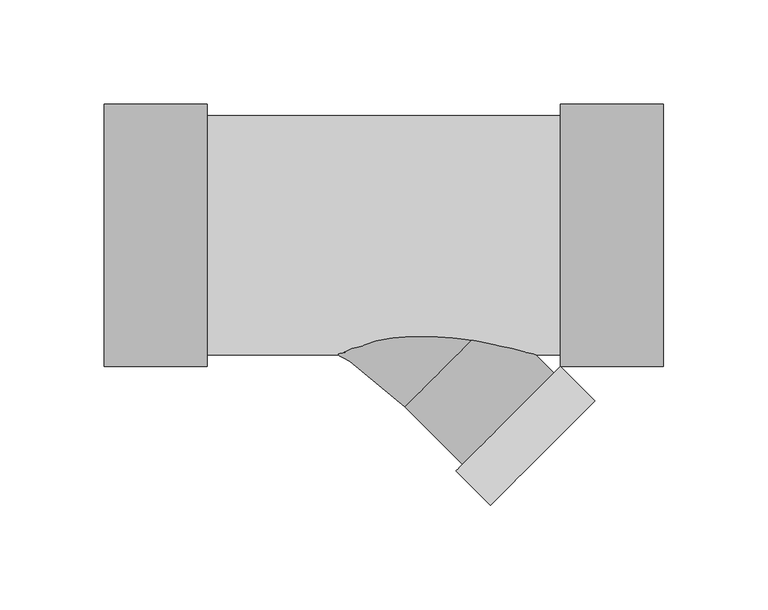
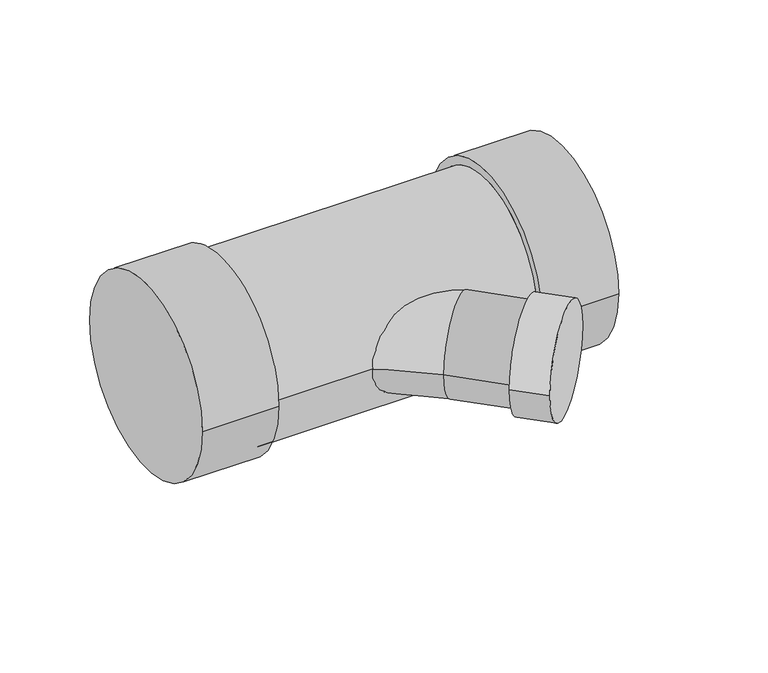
"""IFC4 building model written with IfcOpenShell, lengths in millimetres: pipe fitting geometry, M_Sanitario con te de reducción - PVC - Serie 40 - DWV : Estándar."""

from ifc_helpers import new_model, si_unit, point, frame, origin, place, context, project, spatial, circle_curve, ellipse_curve, trimmed, source, transform, mapped, element, save
from ifc_brep_helpers import plane_surface, cylinder_surface, revolved_surface, advanced_brep


def pipe_fitting_7e95fadc(model_context):
    return source(origin(), model_context, "Body", "AdvancedBrep", [
        advanced_brep(
        [(113.006794, -62.8511094, 0.0), (113.006794, 62.8511094, 0.0), (113.006794, -57.3960625, 0.0), (113.006794, 57.3960625, 0.0), (162.2431065, -62.8511094, 0.0), (162.2431065, 62.8511094, 0.0), (-56.5584022, 57.3960625, 0.0), (-56.5584022, -57.3960625, 0.0), (-105.7947148, -62.8511094, 0.0), (-105.7947147, 62.8511094, 0.0), (-56.5584023, -62.8511094, 0.0), (-56.5584022, 62.8511094, 0.0)],
        [
            (0, 1, circle_curve(frame((113.006794, 0.0, 0.0), z_axis=(-1.0, 0.0, 0.0), x_axis=(0.0, 1.0, 0.0)), 62.8511094)),
            (1, 0, circle_curve(frame((113.006794, 0.0, 0.0), z_axis=(-1.0, 0.0, 0.0), x_axis=(0.0, 1.0, 0.0)), 62.8511094)),
            (2, 3, circle_curve(frame((113.006794, 0.0, 0.0), z_axis=(1.0, 0.0, 0.0), x_axis=(0.0, 0.0, -1.0)), 57.3960625)),
            (3, 2, circle_curve(frame((113.006794, 0.0, 0.0), z_axis=(1.0, 0.0, 0.0), x_axis=(0.0, 0.0, 1.0)), 57.3960625)),
            (4, 5, circle_curve(frame((162.2431065, 0.0, 0.0), z_axis=(1.0, 0.0, 0.0), x_axis=(0.0, 1.0, 0.0)), 62.8511094)),
            (5, 4, circle_curve(frame((162.2431065, 0.0, 0.0), z_axis=(1.0, 0.0, 0.0), x_axis=(0.0, 1.0, 0.0)), 62.8511094)),
            (0, 4),
            (5, 1),
            (6, 3),
            (2, 7),
            (7, 6, circle_curve(frame((-56.5584023, 0.0, 0.0), z_axis=(1.0, 0.0, 0.0), x_axis=(0.0, 0.0, -1.0)), 57.3960625)),
            (6, 7, circle_curve(frame((-56.5584022, 0.0, 0.0), z_axis=(1.0, 0.0, 0.0), x_axis=(0.0, 0.0, 1.0)), 57.3960625)),
            (8, 9, circle_curve(frame((-105.7947147, 0.0, 0.0), z_axis=(-1.0, 0.0, 0.0), x_axis=(0.0, 1.0, 0.0)), 62.8511094)),
            (9, 8, circle_curve(frame((-105.7947147, 0.0, 0.0), z_axis=(-1.0, 0.0, 0.0), x_axis=(0.0, 1.0, 0.0)), 62.8511094)),
            (10, 11, circle_curve(frame((-56.5584022, 0.0, 0.0), z_axis=(1.0, 0.0, 0.0), x_axis=(0.0, 1.0, 0.0)), 62.8511094)),
            (11, 10, circle_curve(frame((-56.5584022, 0.0, 0.0), z_axis=(1.0, 0.0, 0.0), x_axis=(0.0, 1.0, 0.0)), 62.8511094)),
            (8, 10),
            (11, 9),
        ],
        [
            plane_surface(frame((113.006794, 0.0, 0.0), z_axis=(-1.0, 0.0, 0.0), x_axis=(0.0, 0.0, 1.0))),
            plane_surface(frame((162.2431065, 0.0, 0.0), z_axis=(1.0, 0.0, 0.0), x_axis=(0.0, 0.0, 1.0))),
            cylinder_surface(frame((113.006794, 0.0, 0.0), z_axis=(-1.0, 0.0, 0.0), x_axis=(0.0, 1.0, 0.0)), 62.8511094),
            cylinder_surface(frame((-56.5584022, 0.0, 0.0), z_axis=(1.0, 0.0, 0.0), x_axis=(0.0, 0.0, -1.0)), 57.3960625),
            cylinder_surface(frame((-56.5584022, 0.0, 0.0), z_axis=(1.0, 0.0, 0.0), x_axis=(0.0, 0.0, 1.0)), 57.3960625),
            plane_surface(frame((-105.7947147, 0.0, 0.0), z_axis=(-1.0, 0.0, 0.0), x_axis=(0.0, 0.0, 1.0))),
            plane_surface(frame((-56.5584022, 0.0, 0.0), z_axis=(1.0, 0.0, 0.0), x_axis=(0.0, 0.0, 1.0))),
            cylinder_surface(frame((-105.7947147, 0.0, 0.0), z_axis=(-1.0, 0.0, 0.0), x_axis=(0.0, 1.0, 0.0)), 62.8511094),
        ],
        [
            (0, [[1, 2], [3, 4]]),
            (1, [[5, 6]]),
            (2, [[-1, 7, -6, 8]]),
            (2, [[-2, -8, -5, -7]]),
            (3, [[9, -3, 10, 11]]),
            (4, [[-9, 12, -10, -4]]),
            (5, [[13, 14]]),
            (6, [[15, 16], [-11, -12]]),
            (7, [[-13, 17, -16, 18]]),
            (7, [[-14, -18, -15, -17]]),
        ],
    ),
        advanced_brep(
        [(129.5085444, -79.3405726, 0.0), (79.4370185, -129.4494095, 0.0), (60.4006737, -60.3556994, 30.9800625), (38.5026217, -82.2700689, 0.0), (66.072979, -109.8198973, 0.0), (109.8690831, -65.9911583, 0.0), (82.2987258, -38.4413299, 0.0), (60.4006737, -60.3556994, -30.9800625), (-85.3876562, -30.9800625, 0.0), (-85.3876562, 30.9800625, 0.0), (113.006794, -62.8511094, 0.0), (62.9352681, -112.9599463, 0.0)],
        [
            (0, 1, circle_curve(frame((104.4727815, -104.394991, 0.0), z_axis=(0.7073700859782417, -0.7068433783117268, 0.0), x_axis=(-0.7068433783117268, -0.7073700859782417, 0.0)), 35.4191094)),
            (1, 0, circle_curve(frame((104.4727815, -104.394991, 0.0), z_axis=(0.7073700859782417, -0.7068433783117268, 0.0), x_axis=(-0.7068433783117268, -0.7073700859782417, 0.0)), 35.4191094)),
            (2, 3, circle_curve(frame((60.4006737, -60.3556994, 0.0), z_axis=(0.7073700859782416, -0.706843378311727, 0.0), x_axis=(0.706843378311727, 0.7073700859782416, 0.0)), 30.9800625)),
            (3, 4),
            (4, 5, circle_curve(frame((87.971031, -87.9055278, 0.0), z_axis=(-0.7073700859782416, 0.706843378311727, 0.0), x_axis=(0.706843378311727, 0.7073700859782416, 0.0)), 30.9800625)),
            (5, 6),
            (6, 2, circle_curve(frame((60.4006737, -60.3556994, 0.0), z_axis=(0.7073700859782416, -0.706843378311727, 0.0), x_axis=(0.706843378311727, 0.7073700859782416, 0.0)), 30.9800625)),
            (3, 7, circle_curve(frame((60.4006737, -60.3556994, 0.0), z_axis=(0.7073700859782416, -0.706843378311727, 0.0), x_axis=(0.706843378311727, 0.7073700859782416, 0.0)), 30.9800625)),
            (7, 6, circle_curve(frame((60.4006737, -60.3556994, 0.0), z_axis=(0.7073700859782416, -0.706843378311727, 0.0), x_axis=(0.706843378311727, 0.7073700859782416, 0.0)), 30.9800625)),
            (5, 4, circle_curve(frame((87.971031, -87.9055278, 0.0), z_axis=(-0.7073700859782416, 0.706843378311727, 0.0), x_axis=(0.706843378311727, 0.7073700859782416, 0.0)), 30.9800625)),
            (8, 9, circle_curve(frame((-85.3876562, 0.0, 0.0), z_axis=(-1.0000000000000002, 0.0, 0.0), x_axis=(0.0, 1.0, 0.0)), 30.9800625)),
            (9, 8, circle_curve(frame((-85.3876562, 0.0, 0.0), z_axis=(-1.0000000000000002, 0.0, 0.0), x_axis=(0.0, 1.0, 0.0)), 30.9800625)),
            (8, 3, circle_curve(frame((-85.3876562, -206.2526643, 0.0), z_axis=(0.0, 0.0, -1.0), x_axis=(0.0, 1.0, 0.0)), 175.2726018)),
            (6, 9, circle_curve(frame((-85.3876562, -206.2526643, 0.0), z_axis=(0.0, 0.0, 1.0), x_axis=(0.0, 1.0, 0.0)), 237.2327268)),
            (10, 11, circle_curve(frame((87.971031, -87.9055278, 0.0), z_axis=(-0.7073700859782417, 0.7068433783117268, 0.0), x_axis=(-0.7068433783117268, -0.7073700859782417, 0.0)), 35.4191094)),
            (11, 10, circle_curve(frame((87.971031, -87.9055278, 0.0), z_axis=(-0.7073700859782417, 0.7068433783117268, 0.0), x_axis=(-0.7068433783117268, -0.7073700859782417, 0.0)), 35.4191094)),
            (0, 10),
            (11, 1),
        ],
        [
            plane_surface(frame((104.4727815, -104.394991, 0.0), z_axis=(0.7073700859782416, -0.706843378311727, 0.0), x_axis=(0.0, 0.0, 1.0))),
            cylinder_surface(frame((60.4006737, -60.3556994, 0.0), z_axis=(-0.7073700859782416, 0.706843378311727, 0.0), x_axis=(0.706843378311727, 0.7073700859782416, 0.0)), 30.9800625),
            plane_surface(frame((-85.3876562, 0.0, 0.0), z_axis=(-1.0, 0.0, 0.0), x_axis=(0.0, 0.0, 1.0))),
            revolved_surface(trimmed(ellipse_curve(frame((-85.3876562, 0.0, 0.0), z_axis=(-1.0000000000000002, 0.0, 0.0), x_axis=(0.0, 1.0, 0.0)), 30.9800625, 30.9800625), [point((-85.3876562, -30.9800625, 0.0))], [point((-85.3876562, 30.9800625, 0.0))], True, "CARTESIAN"), (-85.3876562, -206.2526643, 0.0), (0.0, 0.0, -1.0000000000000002)),
            revolved_surface(trimmed(ellipse_curve(frame((-85.3876562, 0.0, 0.0), z_axis=(-1.0000000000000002, 0.0, 0.0), x_axis=(0.0, 1.0, 0.0)), 30.9800625, 30.9800625), [point((-85.3876562, 30.9800625, 0.0))], [point((-85.3876562, -30.9800625, 0.0))], True, "CARTESIAN"), (-85.3876562, -206.2526643, 0.0), (0.0, 0.0, -1.0000000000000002)),
            plane_surface(frame((87.971031, -87.9055278, 0.0), z_axis=(-0.7073700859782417, 0.7068433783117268, 0.0), x_axis=(0.0, 0.0, 1.0))),
            cylinder_surface(frame((104.4727815, -104.394991, 0.0), z_axis=(0.7073700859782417, -0.7068433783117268, 0.0), x_axis=(-0.7068433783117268, -0.7073700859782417, 0.0)), 35.4191094),
        ],
        [
            (0, [[1, 2]]),
            (1, [[3, 4, 5, 6, 7]]),
            (1, [[8, 9, -6, 10, -4]]),
            (2, [[11, 12]]),
            (3, [[-11, 13, -3, -7, 14]]),
            (4, [[-12, -14, -9, -8, -13]]),
            (5, [[15, 16], [-5, -10]]),
            (6, [[-1, 17, -16, 18]]),
            (6, [[-2, -18, -15, -17]]),
        ],
    ),
    ])


if __name__ == "__main__":
    model = new_model("IFC4")
    model_context = context("Model", 3, world=origin())
    ifc_project = project(units=[si_unit("LENGTHUNIT", "METRE", prefix="MILLI")], contexts=[model_context])
    site = spatial("IfcSite", under=ifc_project)
    building = spatial("IfcBuilding", under=site)
    placement = place(None, origin())
    pipe_fitting_shape = pipe_fitting_7e95fadc(model_context)
    element("IfcPipeFitting", 1, ObjectType="M_Sanitario con te de reducción - PVC - Serie 40 - DWV : Estándar", at=placement, inside=building, context=model_context, shape_type="MappedRepresentation", body=[
        mapped(pipe_fitting_shape, transform((0.0, 0.0, 0.0), x_axis=(1.0, 0.0, 0.0), y_axis=(0.0, 1.0, 0.0), z_axis=(0.0, 0.0, 1.0))),
    ])
    save(model, "model.ifc")
